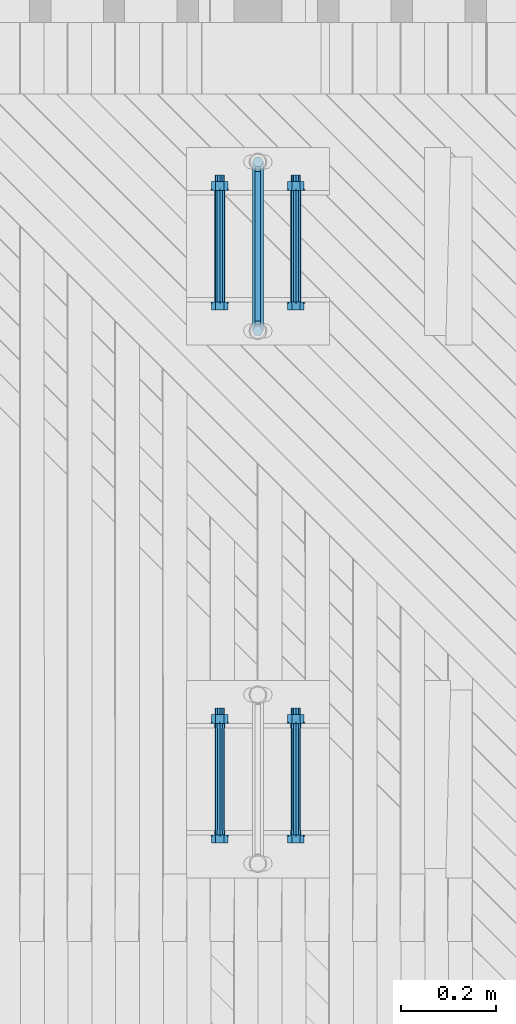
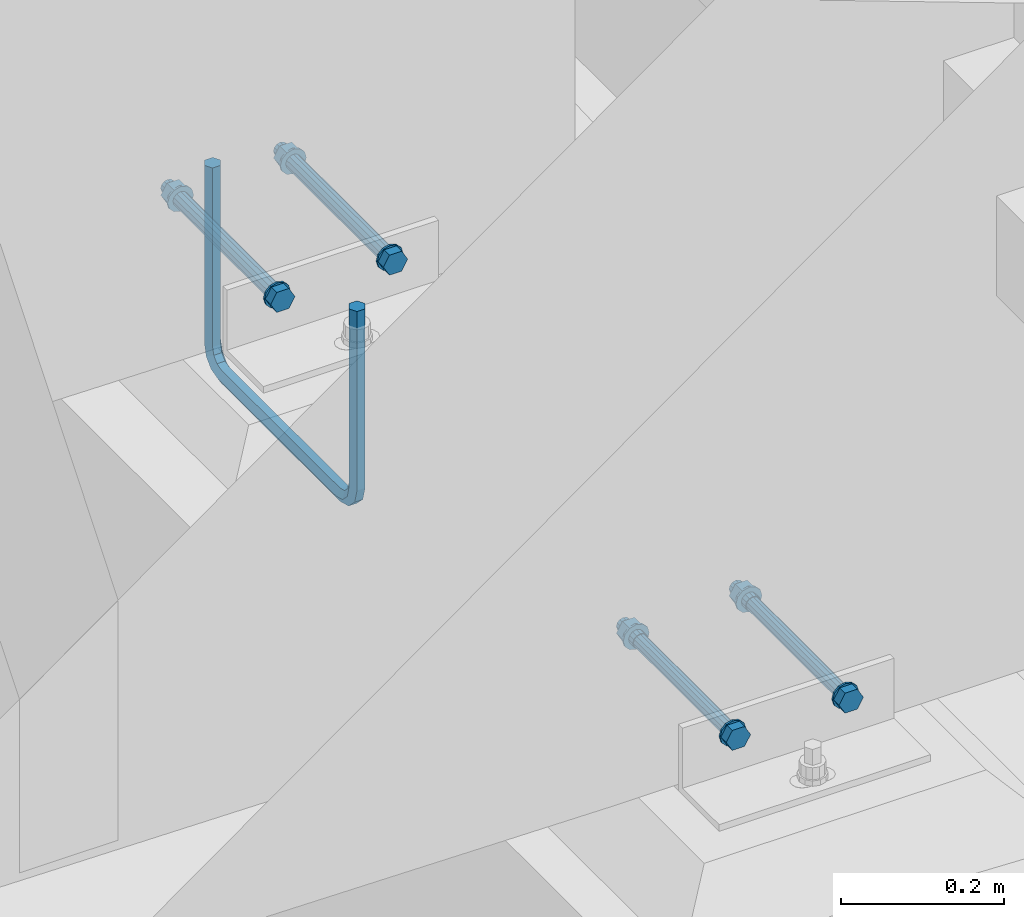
# One storey, part 3 of 53: 2 mechanical fasteners, 2 reinforcing bars.
"""IFC2X3 building model written with IfcOpenShell, lengths in millimetres."""

from ifc_helpers import new_model, si_unit, frame, origin_with_axes, place, context, subcontext, project, spatial, faceted_brep, source, transform, mapped, material, type_object, element, save


model = new_model("IFC2X3")

# Units and contexts
model_context = context("Model", 3, precision=1e-05, world=origin_with_axes())
body_context = subcontext(model_context, "Body", "Model", "MODEL_VIEW")
ifc_project = project(units=[si_unit("LENGTHUNIT", "METRE", prefix="MILLI"), si_unit("AREAUNIT", "SQUARE_METRE"), si_unit("VOLUMEUNIT", "CUBIC_METRE"), si_unit("MASSUNIT", "GRAM", prefix="KILO"), si_unit("TIMEUNIT", "SECOND"), si_unit("PLANEANGLEUNIT", "RADIAN"), si_unit("SOLIDANGLEUNIT", "STERADIAN"), si_unit("THERMODYNAMICTEMPERATUREUNIT", "DEGREE_CELSIUS"), si_unit("LUMINOUSINTENSITYUNIT", "LUMEN")], contexts=[model_context])

# Site, building, storey
site_placement = place(None, origin_with_axes())
site = spatial("IfcSite", under=ifc_project, at=site_placement, Name="Undefined", CompositionType="ELEMENT")
building_placement = place(site_placement, origin_with_axes())
building = spatial("IfcBuilding", under=site, at=building_placement, Name="Undefined", CompositionType="ELEMENT")
storey_placement = place(building_placement, origin_with_axes())
storey = spatial("IfcBuildingStorey", under=building, at=storey_placement, Name="Undefined", CompositionType="ELEMENT", Elevation=0.0)

# Reinforcing bars
ifc_material_1 = material(Name="A500HW")
shared_shape_1 = source(origin_with_axes(), body_context, "Body", "Brep", [
    faceted_brep([(9.95929214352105, -5.74999999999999, -1.31778448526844e-16), (9.95929214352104, 5.75000000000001, -1.31778448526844e-16), (-4.46864767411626e-15, 11.5, 5.31556664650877e-32), (-9.95929214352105, 5.75, 1.31778448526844e-16), (-9.95929214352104, -5.75, 1.31778448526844e-16), (0.0, -11.5, 0.0), (-9.95929214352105, -5.75, -268.5), (-3.5527136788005e-15, -11.5, -268.5), (-9.95929214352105, 5.75, -268.5), (-8.02136135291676e-15, 11.5, -268.5), (9.95929214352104, 5.75000000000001, -268.5), (9.95929214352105, -5.74999999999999, -268.5), (-4.40480021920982, -5.75, -289.229646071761), (4.22019978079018, -11.5, -284.25), (-4.40480021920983, 5.75, -289.229646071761), (4.22019978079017, 11.5, -284.25), (12.8451997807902, 5.75000000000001, -279.27035392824), (12.8451997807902, -5.74999999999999, -279.27035392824), (10.7703539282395, -5.75, -304.40480021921), (15.75, -11.5, -295.77980021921), (10.7703539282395, 5.75, -304.40480021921), (15.75, 11.5, -295.77980021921), (20.7296460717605, 5.75000000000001, -287.15480021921), (20.7296460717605, -5.74999999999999, -287.15480021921), (31.5, -5.75, -309.959292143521), (31.5, -11.5, -300.0), (31.5, 5.75, -309.959292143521), (31.5, 11.5, -300.0), (31.5, 5.75000000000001, -290.040707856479), (31.5, -5.74999999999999, -290.040707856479), (323.5, -5.75, -309.959292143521), (323.5, -11.5, -300.0), (323.5, 5.75, -309.959292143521), (323.5, 11.5, -300.0), (323.5, 5.75000000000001, -290.040707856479), (323.5, -5.74999999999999, -290.040707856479), (344.229646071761, -5.75, -304.40480021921), (339.25, -11.5, -295.77980021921), (344.229646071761, 5.75, -304.40480021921), (339.25, 11.5, -295.77980021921), (334.270353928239, 5.75000000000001, -287.15480021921), (334.270353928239, -5.74999999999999, -287.15480021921), (359.40480021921, -5.75, -289.229646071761), (350.77980021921, -11.5, -284.25), (359.40480021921, 5.75, -289.229646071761), (350.77980021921, 11.5, -284.25), (342.15480021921, 5.75000000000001, -279.27035392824), (342.15480021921, -5.74999999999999, -279.27035392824), (364.959292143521, -5.75, -268.5), (355.0, -11.5, -268.5), (364.959292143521, 5.75, -268.5), (355.0, 11.5, -268.5), (345.040707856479, 5.75000000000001, -268.5), (345.040707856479, -5.74999999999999, -268.5), (364.959292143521, -5.75, 0.0), (355.0, -11.5, 0.0), (364.959292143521, 5.75, 0.0), (355.0, 11.5, 0.0), (345.040707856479, 5.75000000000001, 0.0), (345.040707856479, -5.74999999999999, 0.0)], [[[0, 1, 2, 3, 4, 5]], [[5, 4, 6, 7]], [[4, 3, 8, 6]], [[3, 2, 9, 8]], [[2, 1, 10, 9]], [[1, 0, 11, 10]], [[0, 5, 7, 11]], [[7, 6, 12, 13]], [[6, 8, 14, 12]], [[8, 9, 15, 14]], [[9, 10, 16, 15]], [[10, 11, 17, 16]], [[11, 7, 13, 17]], [[13, 12, 18, 19]], [[12, 14, 20, 18]], [[14, 15, 21, 20]], [[15, 16, 22, 21]], [[16, 17, 23, 22]], [[17, 13, 19, 23]], [[19, 18, 24, 25]], [[18, 20, 26, 24]], [[20, 21, 27, 26]], [[21, 22, 28, 27]], [[22, 23, 29, 28]], [[23, 19, 25, 29]], [[25, 24, 30, 31]], [[24, 26, 32, 30]], [[26, 27, 33, 32]], [[27, 28, 34, 33]], [[28, 29, 35, 34]], [[29, 25, 31, 35]], [[31, 30, 36, 37]], [[30, 32, 38, 36]], [[32, 33, 39, 38]], [[33, 34, 40, 39]], [[34, 35, 41, 40]], [[35, 31, 37, 41]], [[37, 36, 42, 43]], [[36, 38, 44, 42]], [[38, 39, 45, 44]], [[39, 40, 46, 45]], [[40, 41, 47, 46]], [[41, 37, 43, 47]], [[43, 42, 48, 49]], [[42, 44, 50, 48]], [[44, 45, 51, 50]], [[45, 46, 52, 51]], [[46, 47, 53, 52]], [[47, 43, 49, 53]], [[49, 48, 54, 55]], [[48, 50, 56, 54]], [[50, 51, 57, 56]], [[51, 52, 58, 57]], [[52, 53, 59, 58]], [[53, 49, 55, 59]], [[55, 54, 56, 57, 58, 59]]]),
])
for number, where, z_axis, x_axis, name in (
    (1, (16000.0, 44222.5000000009, 1615.32999999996), (0.0, 0.0, 1.0), (0.0, -1.0, 0.0), "REBAR"),
    (2, (16000.0, 44222.5000000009, 1615.32999999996), (0.0, 0.0, 1.0), (0.0, -1.0, 0.0), "REBAR"),
):
    element("IfcReinforcingBar", number, at=place(storey_placement, frame(where, z_axis=z_axis, x_axis=x_axis)), inside=storey, material=ifc_material_1, Name=name, BarRole="NOTDEFINED", CrossSectionArea=0.0, NominalDiameter=23.0, context=body_context, shape_type="MappedRepresentation", body=[
        mapped(shared_shape_1, transform((0.0, 0.0, 420.0))),
    ])

# Mechanical fasteners
ifc_material_2 = material(Name="Undefined")
mechanical_fastener_type = type_object("IfcMechanicalFastenerType", Name="Bolt assembly")
shared_shape_2 = source(origin_with_axes(), body_context, "Body", "Brep", [
    faceted_brep([(17.3205080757, -238.7, 0.0), (8.66025403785, -238.7, 15.0000000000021), (-8.66025403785, -238.7, 15.0000000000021), (-17.3205080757, -238.7, 0.0), (-8.66025403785, -238.7, -15.0000000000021), (8.66025403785, -238.7, -15.0000000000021), (8.66025403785, -225.5, -15.0000000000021), (-8.66025403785, -225.5, -15.0000000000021), (-17.3205080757, -225.5, 0.0), (-8.66025403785, -225.5, 15.0000000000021), (8.66025403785, -225.5, 15.0000000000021), (17.3205080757, -225.5, 0.0), (10.0, -225.5, 0.0), (8.66025403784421, -225.5, 5.0000000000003), (4.9999999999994, -225.5, 8.66025403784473), (-1.03633598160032e-12, -225.5, 10.0), (-5.00000000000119, -225.5, 8.6602540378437), (-8.66025403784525, -225.5, 4.99999999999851), (-10.0, -225.5, -2.07267196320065e-12), (-8.66025403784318, -225.5, -5.00000000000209), (-4.99999999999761, -225.5, -8.66025403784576), (3.09790571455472e-12, -225.5, -10.0), (5.00000000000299, -225.5, -8.66025403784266), (8.66025403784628, -225.5, -4.99999999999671), (8.66025403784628, 44.5, -4.99999999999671), (5.00000000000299, 44.5, -8.66025403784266), (3.09790571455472e-12, 44.5, -10.0), (-4.99999999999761, 44.5, -8.66025403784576), (-8.66025403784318, 44.5, -5.00000000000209), (-10.0, 44.5, -2.07267196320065e-12), (-8.66025403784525, 44.5, 4.99999999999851), (-5.00000000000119, 44.5, 8.6602540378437), (-1.03633598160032e-12, 44.5, 10.0), (4.9999999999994, 44.5, 8.66025403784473), (8.66025403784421, 44.5, 5.0000000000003), (10.0, 44.5, 0.0), (18.5, -225.5, 0.0), (16.0214699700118, -225.5, 9.25000000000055), (9.2499999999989, -225.5, 16.0214699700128), (-1.9172215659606e-12, -225.5, 18.5), (-9.25000000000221, -225.5, 16.0214699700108), (-16.0214699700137, -225.5, 9.24999999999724), (-18.5, -225.5, -3.83444313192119e-12), (-16.0214699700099, -225.5, -9.25000000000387), (-9.24999999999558, -225.5, -16.0214699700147), (5.73112557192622e-12, -225.5, -18.5), (9.25000000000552, -225.5, -16.0214699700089), (16.0214699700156, -225.5, -9.24999999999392), (16.0214699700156, -222.5, -9.24999999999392), (9.25000000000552, -222.5, -16.0214699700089), (5.73112557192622e-12, -222.5, -18.5), (-9.24999999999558, -222.5, -16.0214699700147), (-16.0214699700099, -222.5, -9.25000000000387), (-18.5, -222.5, -3.83444313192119e-12), (-16.0214699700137, -222.5, 9.24999999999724), (-9.25000000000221, -222.5, 16.0214699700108), (-1.9172215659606e-12, -222.5, 18.5), (9.2499999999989, -222.5, 16.0214699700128), (16.0214699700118, -222.5, 9.25000000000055), (18.5, -222.5, 0.0), (18.5, 12.5, 0.0), (16.0214699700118, 12.5, 9.25000000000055), (9.2499999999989, 12.5, 16.0214699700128), (-1.9172215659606e-12, 12.5, 18.5), (-9.25000000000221, 12.5, 16.0214699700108), (-16.0214699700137, 12.5, 9.24999999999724), (-18.5, 12.5, -3.83444313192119e-12), (-16.0214699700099, 12.5, -9.25000000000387), (-9.24999999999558, 12.5, -16.0214699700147), (5.73112557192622e-12, 12.5, -18.5), (9.25000000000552, 12.5, -16.0214699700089), (16.0214699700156, 12.5, -9.24999999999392), (16.0214699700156, 15.5, -9.24999999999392), (9.25000000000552, 15.5, -16.0214699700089), (5.73112557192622e-12, 15.5, -18.5), (-9.24999999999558, 15.5, -16.0214699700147), (-16.0214699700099, 15.5, -9.25000000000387), (-18.5, 15.5, -3.83444313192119e-12), (-16.0214699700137, 15.5, 9.24999999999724), (-9.25000000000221, 15.5, 16.0214699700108), (-1.9172215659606e-12, 15.5, 18.5), (9.2499999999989, 15.5, 16.0214699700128), (16.0214699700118, 15.5, 9.25000000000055), (18.5, 15.5, 0.0), (17.3205080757, 15.5, 0.0), (8.66025403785, 15.5, 15.0000000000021), (-8.66025403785, 15.5, 15.0000000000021), (-17.3205080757, 15.5, 0.0), (-8.66025403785, 15.5, -15.0000000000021), (8.66025403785, 15.5, -15.0000000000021), (8.66025403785, 31.5, -15.0000000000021), (-8.66025403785, 31.5, -15.0000000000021), (-17.3205080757, 31.5, 0.0), (-8.66025403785, 31.5, 15.0000000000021), (8.66025403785, 31.5, 15.0000000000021), (17.3205080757, 31.5, 0.0)], [[[0, 1, 2, 3, 4, 5]], [[6, 7, 8, 9, 10, 11]], [[0, 11, 10, 1]], [[1, 10, 9, 2]], [[2, 9, 8, 3]], [[3, 8, 7, 4]], [[4, 7, 6, 5]], [[5, 6, 11, 0]], [[12, 13, 14, 15, 16, 17, 18, 19, 20, 21, 22, 23]], [[24, 25, 26, 27, 28, 29, 30, 31, 32, 33, 34, 35]], [[12, 35, 34, 13]], [[13, 34, 33, 14]], [[14, 33, 32, 15]], [[15, 32, 31, 16]], [[16, 31, 30, 17]], [[17, 30, 29, 18]], [[18, 29, 28, 19]], [[19, 28, 27, 20]], [[20, 27, 26, 21]], [[21, 26, 25, 22]], [[22, 25, 24, 23]], [[23, 24, 35, 12]], [[36, 37, 38, 39, 40, 41, 42, 43, 44, 45, 46, 47]], [[48, 49, 50, 51, 52, 53, 54, 55, 56, 57, 58, 59]], [[36, 59, 58, 37]], [[37, 58, 57, 38]], [[38, 57, 56, 39]], [[39, 56, 55, 40]], [[40, 55, 54, 41]], [[41, 54, 53, 42]], [[42, 53, 52, 43]], [[43, 52, 51, 44]], [[44, 51, 50, 45]], [[45, 50, 49, 46]], [[46, 49, 48, 47]], [[47, 48, 59, 36]], [[60, 61, 62, 63, 64, 65, 66, 67, 68, 69, 70, 71]], [[72, 73, 74, 75, 76, 77, 78, 79, 80, 81, 82, 83]], [[60, 83, 82, 61]], [[61, 82, 81, 62]], [[62, 81, 80, 63]], [[63, 80, 79, 64]], [[64, 79, 78, 65]], [[65, 78, 77, 66]], [[66, 77, 76, 67]], [[67, 76, 75, 68]], [[68, 75, 74, 69]], [[69, 74, 73, 70]], [[70, 73, 72, 71]], [[71, 72, 83, 60]], [[84, 85, 86, 87, 88, 89]], [[90, 91, 92, 93, 94, 95]], [[84, 95, 94, 85]], [[85, 94, 93, 86]], [[86, 93, 92, 87]], [[87, 92, 91, 88]], [[88, 91, 90, 89]], [[89, 90, 95, 84]]]),
    faceted_brep([(11.0, -222.4, 0.0), (9.52627944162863, -222.4, 5.50000000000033), (5.49999999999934, -222.4, 9.5262794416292), (-1.13996957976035e-12, -222.4, 11.0), (-5.50000000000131, -222.4, 9.52627944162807), (-9.52627944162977, -222.4, 5.49999999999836), (-11.0, -222.4, -2.27993915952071e-12), (-9.5262794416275, -222.4, -5.5000000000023), (-5.49999999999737, -222.4, -9.52627944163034), (3.40769628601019e-12, -222.4, -11.0), (5.50000000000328, -222.4, -9.52627944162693), (9.52627944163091, -222.4, -5.49999999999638), (9.52627944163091, -212.4, -5.49999999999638), (5.50000000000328, -212.4, -9.52627944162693), (3.40769628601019e-12, -212.4, -11.0), (-5.49999999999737, -212.4, -9.52627944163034), (-9.5262794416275, -212.4, -5.5000000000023), (-11.0, -212.4, -2.27993915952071e-12), (-9.52627944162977, -212.4, 5.49999999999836), (-5.50000000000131, -212.4, 9.52627944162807), (-1.13996957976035e-12, -212.4, 11.0), (5.49999999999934, -212.4, 9.5262794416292), (9.52627944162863, -212.4, 5.50000000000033), (11.0, -212.4, 0.0), (11.0, 2.4, 0.0), (9.52627944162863, 2.4, 5.50000000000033), (5.49999999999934, 2.4, 9.5262794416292), (-1.13996957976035e-12, 2.4, 11.0), (-5.50000000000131, 2.4, 9.52627944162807), (-9.52627944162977, 2.4, 5.49999999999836), (-11.0, 2.4, -2.27993915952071e-12), (-9.5262794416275, 2.4, -5.5000000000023), (-5.49999999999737, 2.4, -9.52627944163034), (3.40769628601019e-12, 2.4, -11.0), (5.50000000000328, 2.4, -9.52627944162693), (9.52627944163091, 2.4, -5.49999999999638), (9.52627944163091, 12.5, -5.49999999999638), (5.50000000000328, 12.5, -9.52627944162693), (3.40769628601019e-12, 12.5, -11.0), (-5.49999999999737, 12.5, -9.52627944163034), (-9.5262794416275, 12.5, -5.5000000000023), (-11.0, 12.5, -2.27993915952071e-12), (-9.52627944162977, 12.5, 5.49999999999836), (-5.50000000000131, 12.5, 9.52627944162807), (-1.13996957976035e-12, 12.5, 11.0), (5.49999999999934, 12.5, 9.5262794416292), (9.52627944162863, 12.5, 5.50000000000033), (11.0, 12.5, 0.0)], [[[0, 1, 2, 3, 4, 5, 6, 7, 8, 9, 10, 11]], [[12, 13, 14, 15, 16, 17, 18, 19, 20, 21, 22, 23]], [[0, 23, 22, 1]], [[1, 22, 21, 2]], [[2, 21, 20, 3]], [[3, 20, 19, 4]], [[4, 19, 18, 5]], [[5, 18, 17, 6]], [[6, 17, 16, 7]], [[7, 16, 15, 8]], [[8, 15, 14, 9]], [[9, 14, 13, 10]], [[10, 13, 12, 11]], [[11, 12, 23, 0]], [[24, 25, 26, 27, 28, 29, 30, 31, 32, 33, 34, 35]], [[36, 37, 38, 39, 40, 41, 42, 43, 44, 45, 46, 47]], [[24, 47, 46, 25]], [[25, 46, 45, 26]], [[26, 45, 44, 27]], [[27, 44, 43, 28]], [[28, 43, 42, 29]], [[29, 42, 41, 30]], [[30, 41, 40, 31]], [[31, 40, 39, 32]], [[32, 39, 38, 33]], [[33, 38, 37, 34]], [[34, 37, 36, 35]], [[35, 36, 47, 24]]]),
])
mechanical_fastener_1_placement = place(storey_placement, frame((16080.0, 43030.0000000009, 2067.33), z_axis=(0.0, 0.0, -1.0), x_axis=(-1.0, 0.0, 0.0)))
element("IfcMechanicalFastener", 3, at=mechanical_fastener_1_placement, inside=storey, type_object=mechanical_fastener_type, material=ifc_material_2, Name="Bolt assembly", NominalDiameter=20.0, NominalLength=270.0, context=body_context, shape_type="MappedRepresentation", body=[
    mapped(shared_shape_2, transform((0.0, 0.0, 0.0))),
    mapped(shared_shape_2, transform((160.0, 0.0, 0.0))),
])
shared_shape_3 = source(origin_with_axes(), body_context, "Body", "Brep", [
    faceted_brep([(17.3205080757, -238.7, 0.0), (8.66025403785, -238.7, 15.0000000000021), (-8.66025403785, -238.7, 15.0000000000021), (-17.3205080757, -238.7, 0.0), (-8.66025403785, -238.7, -15.0000000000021), (8.66025403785, -238.7, -15.0000000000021), (8.66025403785, -225.5, -15.0000000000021), (-8.66025403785, -225.5, -15.0000000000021), (-17.3205080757, -225.5, 0.0), (-8.66025403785, -225.5, 15.0000000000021), (8.66025403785, -225.5, 15.0000000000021), (17.3205080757, -225.5, 0.0), (10.0, -225.5, 0.0), (8.66025403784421, -225.5, 5.0000000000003), (4.9999999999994, -225.5, 8.66025403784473), (-1.03633598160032e-12, -225.5, 10.0), (-5.00000000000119, -225.5, 8.6602540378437), (-8.66025403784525, -225.5, 4.99999999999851), (-10.0, -225.5, -2.07267196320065e-12), (-8.66025403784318, -225.5, -5.00000000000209), (-4.99999999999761, -225.5, -8.66025403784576), (3.09790571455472e-12, -225.5, -10.0), (5.00000000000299, -225.5, -8.66025403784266), (8.66025403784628, -225.5, -4.99999999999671), (8.66025403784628, 44.5, -4.99999999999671), (5.00000000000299, 44.5, -8.66025403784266), (3.09790571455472e-12, 44.5, -10.0), (-4.99999999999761, 44.5, -8.66025403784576), (-8.66025403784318, 44.5, -5.00000000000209), (-10.0, 44.5, -2.07267196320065e-12), (-8.66025403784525, 44.5, 4.99999999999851), (-5.00000000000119, 44.5, 8.6602540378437), (-1.03633598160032e-12, 44.5, 10.0), (4.9999999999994, 44.5, 8.66025403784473), (8.66025403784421, 44.5, 5.0000000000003), (10.0, 44.5, 0.0), (18.5, -225.5, 0.0), (16.0214699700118, -225.5, 9.25000000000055), (9.2499999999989, -225.5, 16.0214699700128), (-1.9172215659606e-12, -225.5, 18.5), (-9.25000000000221, -225.5, 16.0214699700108), (-16.0214699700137, -225.5, 9.24999999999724), (-18.5, -225.5, -3.83444313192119e-12), (-16.0214699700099, -225.5, -9.25000000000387), (-9.24999999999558, -225.5, -16.0214699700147), (5.73112557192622e-12, -225.5, -18.5), (9.25000000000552, -225.5, -16.0214699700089), (16.0214699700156, -225.5, -9.24999999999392), (16.0214699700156, -222.5, -9.24999999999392), (9.25000000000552, -222.5, -16.0214699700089), (5.73112557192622e-12, -222.5, -18.5), (-9.24999999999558, -222.5, -16.0214699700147), (-16.0214699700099, -222.5, -9.25000000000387), (-18.5, -222.5, -3.83444313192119e-12), (-16.0214699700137, -222.5, 9.24999999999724), (-9.25000000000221, -222.5, 16.0214699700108), (-1.9172215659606e-12, -222.5, 18.5), (9.2499999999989, -222.5, 16.0214699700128), (16.0214699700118, -222.5, 9.25000000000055), (18.5, -222.5, 0.0), (18.5, 12.5, 0.0), (16.0214699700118, 12.5, 9.25000000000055), (9.2499999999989, 12.5, 16.0214699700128), (-1.9172215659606e-12, 12.5, 18.5), (-9.25000000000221, 12.5, 16.0214699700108), (-16.0214699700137, 12.5, 9.24999999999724), (-18.5, 12.5, -3.83444313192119e-12), (-16.0214699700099, 12.5, -9.25000000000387), (-9.24999999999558, 12.5, -16.0214699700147), (5.73112557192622e-12, 12.5, -18.5), (9.25000000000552, 12.5, -16.0214699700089), (16.0214699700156, 12.5, -9.24999999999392), (16.0214699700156, 15.5, -9.24999999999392), (9.25000000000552, 15.5, -16.0214699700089), (5.73112557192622e-12, 15.5, -18.5), (-9.24999999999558, 15.5, -16.0214699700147), (-16.0214699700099, 15.5, -9.25000000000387), (-18.5, 15.5, -3.83444313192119e-12), (-16.0214699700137, 15.5, 9.24999999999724), (-9.25000000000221, 15.5, 16.0214699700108), (-1.9172215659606e-12, 15.5, 18.5), (9.2499999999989, 15.5, 16.0214699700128), (16.0214699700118, 15.5, 9.25000000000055), (18.5, 15.5, 0.0), (17.3205080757, 15.5, 0.0), (8.66025403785, 15.5, 15.0000000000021), (-8.66025403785, 15.5, 15.0000000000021), (-17.3205080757, 15.5, 0.0), (-8.66025403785, 15.5, -15.0000000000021), (8.66025403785, 15.5, -15.0000000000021), (8.66025403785, 31.5, -15.0000000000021), (-8.66025403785, 31.5, -15.0000000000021), (-17.3205080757, 31.5, 0.0), (-8.66025403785, 31.5, 15.0000000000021), (8.66025403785, 31.5, 15.0000000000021), (17.3205080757, 31.5, 0.0)], [[[0, 1, 2, 3, 4, 5]], [[6, 7, 8, 9, 10, 11]], [[0, 11, 10, 1]], [[1, 10, 9, 2]], [[2, 9, 8, 3]], [[3, 8, 7, 4]], [[4, 7, 6, 5]], [[5, 6, 11, 0]], [[12, 13, 14, 15, 16, 17, 18, 19, 20, 21, 22, 23]], [[24, 25, 26, 27, 28, 29, 30, 31, 32, 33, 34, 35]], [[12, 35, 34, 13]], [[13, 34, 33, 14]], [[14, 33, 32, 15]], [[15, 32, 31, 16]], [[16, 31, 30, 17]], [[17, 30, 29, 18]], [[18, 29, 28, 19]], [[19, 28, 27, 20]], [[20, 27, 26, 21]], [[21, 26, 25, 22]], [[22, 25, 24, 23]], [[23, 24, 35, 12]], [[36, 37, 38, 39, 40, 41, 42, 43, 44, 45, 46, 47]], [[48, 49, 50, 51, 52, 53, 54, 55, 56, 57, 58, 59]], [[36, 59, 58, 37]], [[37, 58, 57, 38]], [[38, 57, 56, 39]], [[39, 56, 55, 40]], [[40, 55, 54, 41]], [[41, 54, 53, 42]], [[42, 53, 52, 43]], [[43, 52, 51, 44]], [[44, 51, 50, 45]], [[45, 50, 49, 46]], [[46, 49, 48, 47]], [[47, 48, 59, 36]], [[60, 61, 62, 63, 64, 65, 66, 67, 68, 69, 70, 71]], [[72, 73, 74, 75, 76, 77, 78, 79, 80, 81, 82, 83]], [[60, 83, 82, 61]], [[61, 82, 81, 62]], [[62, 81, 80, 63]], [[63, 80, 79, 64]], [[64, 79, 78, 65]], [[65, 78, 77, 66]], [[66, 77, 76, 67]], [[67, 76, 75, 68]], [[68, 75, 74, 69]], [[69, 74, 73, 70]], [[70, 73, 72, 71]], [[71, 72, 83, 60]], [[84, 85, 86, 87, 88, 89]], [[90, 91, 92, 93, 94, 95]], [[84, 95, 94, 85]], [[85, 94, 93, 86]], [[86, 93, 92, 87]], [[87, 92, 91, 88]], [[88, 91, 90, 89]], [[89, 90, 95, 84]]]),
    faceted_brep([(11.0, 2.4, 0.0), (9.52627944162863, 2.4, 5.50000000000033), (5.49999999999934, 2.4, 9.5262794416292), (-1.13996957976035e-12, 2.4, 11.0), (-5.50000000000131, 2.4, 9.52627944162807), (-9.52627944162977, 2.4, 5.49999999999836), (-11.0, 2.4, -2.27993915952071e-12), (-9.5262794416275, 2.4, -5.5000000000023), (-5.49999999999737, 2.4, -9.52627944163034), (3.40769628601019e-12, 2.4, -11.0), (5.50000000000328, 2.4, -9.52627944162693), (9.52627944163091, 2.4, -5.49999999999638), (9.52627944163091, 12.5, -5.49999999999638), (5.50000000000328, 12.5, -9.52627944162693), (3.40769628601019e-12, 12.5, -11.0), (-5.49999999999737, 12.5, -9.52627944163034), (-9.5262794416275, 12.5, -5.5000000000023), (-11.0, 12.5, -2.27993915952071e-12), (-9.52627944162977, 12.5, 5.49999999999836), (-5.50000000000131, 12.5, 9.52627944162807), (-1.13996957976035e-12, 12.5, 11.0), (5.49999999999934, 12.5, 9.5262794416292), (9.52627944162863, 12.5, 5.50000000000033), (11.0, 12.5, 0.0), (11.0, -212.500000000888, 0.0), (9.52627944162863, -212.500000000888, 5.50000000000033), (5.49999999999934, -212.500000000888, 9.5262794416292), (-1.13996957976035e-12, -212.500000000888, 11.0), (-5.50000000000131, -212.500000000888, 9.52627944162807), (-9.52627944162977, -212.500000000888, 5.49999999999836), (-11.0, -212.500000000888, -2.27993915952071e-12), (-9.5262794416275, -212.500000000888, -5.5000000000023), (-5.49999999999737, -212.500000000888, -9.52627944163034), (3.40769628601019e-12, -212.500000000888, -11.0), (5.50000000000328, -212.500000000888, -9.52627944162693), (9.52627944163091, -212.500000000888, -5.49999999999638), (9.52627944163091, 2.49999999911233, -5.49999999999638), (5.50000000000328, 2.49999999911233, -9.52627944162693), (3.40769628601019e-12, 2.49999999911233, -11.0), (-5.49999999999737, 2.49999999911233, -9.52627944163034), (-9.5262794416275, 2.49999999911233, -5.5000000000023), (-11.0, 2.49999999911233, -2.27993915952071e-12), (-9.52627944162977, 2.49999999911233, 5.49999999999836), (-5.50000000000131, 2.49999999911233, 9.52627944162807), (-1.13996957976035e-12, 2.49999999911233, 11.0), (5.49999999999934, 2.49999999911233, 9.5262794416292), (9.52627944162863, 2.49999999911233, 5.50000000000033), (11.0, 2.49999999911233, 0.0), (11.0, -222.4, 0.0), (9.52627944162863, -222.4, 5.50000000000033), (5.49999999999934, -222.4, 9.5262794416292), (-1.13996957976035e-12, -222.4, 11.0), (-5.50000000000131, -222.4, 9.52627944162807), (-9.52627944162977, -222.4, 5.49999999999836), (-11.0, -222.4, -2.27993915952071e-12), (-9.5262794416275, -222.4, -5.5000000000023), (-5.49999999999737, -222.4, -9.52627944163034), (3.40769628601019e-12, -222.4, -11.0), (5.50000000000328, -222.4, -9.52627944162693), (9.52627944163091, -222.4, -5.49999999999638), (9.52627944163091, -212.4, -5.49999999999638), (5.50000000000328, -212.4, -9.52627944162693), (3.40769628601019e-12, -212.4, -11.0), (-5.49999999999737, -212.4, -9.52627944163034), (-9.5262794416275, -212.4, -5.5000000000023), (-11.0, -212.4, -2.27993915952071e-12), (-9.52627944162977, -212.4, 5.49999999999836), (-5.50000000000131, -212.4, 9.52627944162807), (-1.13996957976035e-12, -212.4, 11.0), (5.49999999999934, -212.4, 9.5262794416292), (9.52627944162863, -212.4, 5.50000000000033), (11.0, -212.4, 0.0)], [[[0, 1, 2, 3, 4, 5, 6, 7, 8, 9, 10, 11]], [[12, 13, 14, 15, 16, 17, 18, 19, 20, 21, 22, 23]], [[0, 23, 22, 1]], [[1, 22, 21, 2]], [[2, 21, 20, 3]], [[3, 20, 19, 4]], [[4, 19, 18, 5]], [[5, 18, 17, 6]], [[6, 17, 16, 7]], [[7, 16, 15, 8]], [[8, 15, 14, 9]], [[9, 14, 13, 10]], [[10, 13, 12, 11]], [[11, 12, 23, 0]], [[24, 25, 26, 27, 28, 29, 30, 31, 32, 33, 34, 35]], [[36, 37, 38, 39, 40, 41, 42, 43, 44, 45, 46, 47]], [[24, 47, 46, 25]], [[25, 46, 45, 26]], [[26, 45, 44, 27]], [[27, 44, 43, 28]], [[28, 43, 42, 29]], [[29, 42, 41, 30]], [[30, 41, 40, 31]], [[31, 40, 39, 32]], [[32, 39, 38, 33]], [[33, 38, 37, 34]], [[34, 37, 36, 35]], [[35, 36, 47, 24]], [[48, 49, 50, 51, 52, 53, 54, 55, 56, 57, 58, 59]], [[60, 61, 62, 63, 64, 65, 66, 67, 68, 69, 70, 71]], [[48, 71, 70, 49]], [[49, 70, 69, 50]], [[50, 69, 68, 51]], [[51, 68, 67, 52]], [[52, 67, 66, 53]], [[53, 66, 65, 54]], [[54, 65, 64, 55]], [[55, 64, 63, 56]], [[56, 63, 62, 57]], [[57, 62, 61, 58]], [[58, 61, 60, 59]], [[59, 60, 71, 48]]]),
])
mechanical_fastener_2_placement = place(storey_placement, frame((16080.0, 44150.0000000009, 2045.33), z_axis=(0.0, 0.0, -1.0), x_axis=(-1.0, 0.0, 0.0)))
element("IfcMechanicalFastener", 4, at=mechanical_fastener_2_placement, inside=storey, type_object=mechanical_fastener_type, material=ifc_material_2, Name="Bolt assembly", NominalDiameter=20.0, NominalLength=270.0, context=body_context, shape_type="MappedRepresentation", body=[
    mapped(shared_shape_3, transform((0.0, 0.0, 0.0))),
    mapped(shared_shape_3, transform((160.0, 0.0, 0.0))),
])

save(model, "model.ifc")
